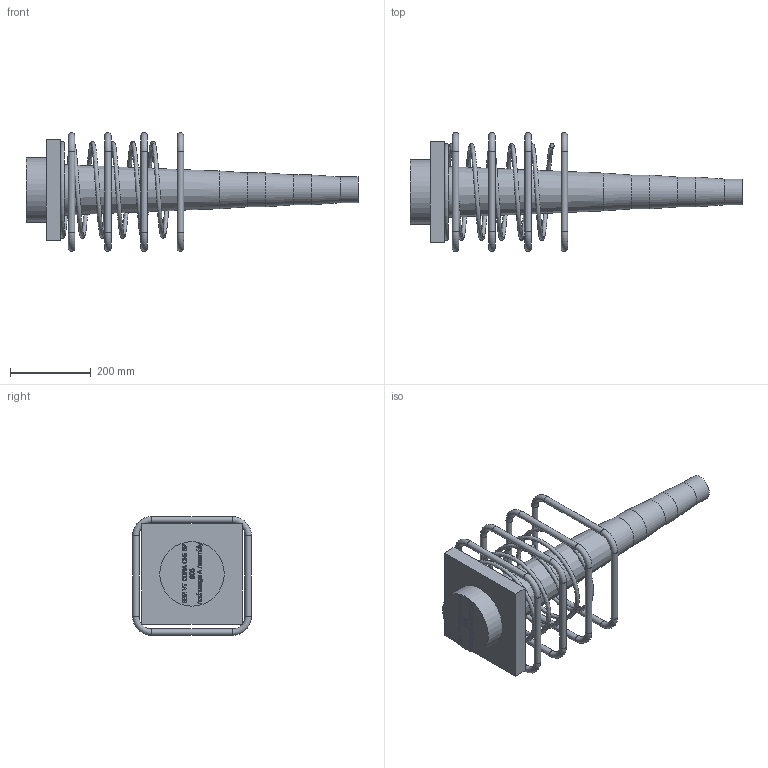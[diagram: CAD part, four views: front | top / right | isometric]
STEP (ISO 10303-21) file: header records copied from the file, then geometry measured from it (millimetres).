
FILE_DESCRIPTION(/* description */ (''),/* implementation_level */ '2;1');
FILE_NAME(/* name */ 'Z:\04 Publications\05 Give-out\BBR\6_3D_Models\BBR VT CONA CMI\BBR VT CONA CMI SP\00906\BBR VT CONA CMI SP 906_Anchorage A Assembly_CS-34,28.stp',/* time_stamp */ '2017-05-05T15:12:22+02:00',/* author */ ('IP'),/* organization */ (''),/* preprocessor_version */ 'ST-DEVELOPER v16.1',/* originating_system */ 'Autodesk Inventor 2016',/* authorisation */ '');
FILE_SCHEMA (('AUTOMOTIVE_DESIGN { 1 0 10303 214 3 1 1 }'));
Length unit declared in the file: millimetre
Products named in the file (1): BBR VT CONA CMI SP 906_Anchorage A Assembly_CS-34,28
Bounding box: 824.1 x 295 x 295 mm (x, y, z)
Volume: 9770210.1 mm3; surface area: 742431.1 mm2
Topology: 6 solids, 6 shells, 642 faces, 1710 edges, 1128 vertices
Faces by surface type: bspline 301, plane 300, torus 20, cylinder 20, cone 1
Full cylindrical faces by diameter (mm): 16 x16, 64 x1, 74 x1, 84 x1, 160 x1
Entity records: 24312 total; most frequent: CARTESIAN_POINT 9839, ORIENTED_EDGE 3340, DIRECTION 1800, EDGE_CURVE 1669, VERTEX_POINT 1127, LINE 1020, VECTOR 1020, EDGE_LOOP 739
